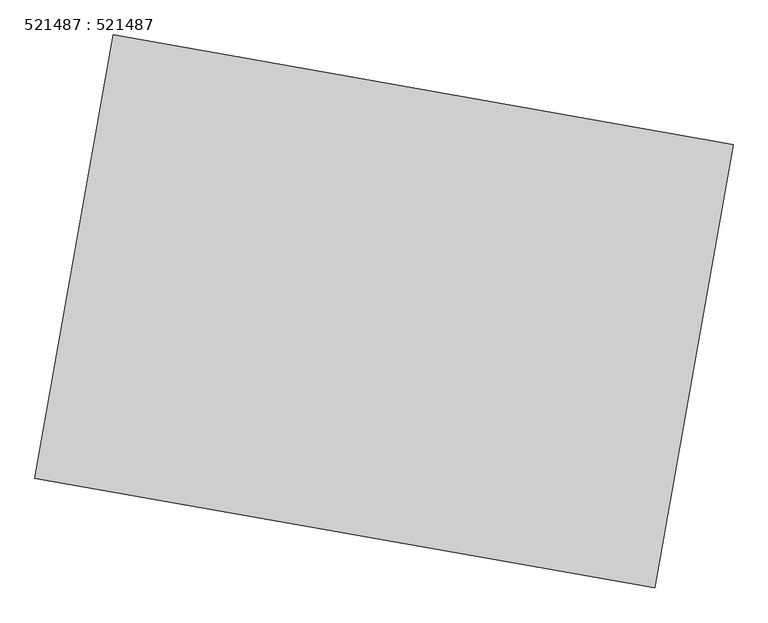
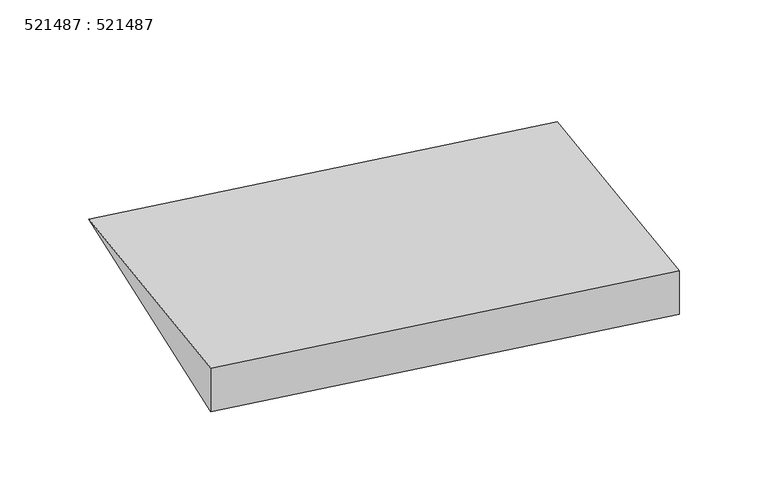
"""IFC4 building model written with IfcOpenShell, lengths in millimetres: proxy geometry, 521487 : 521487."""

from ifc_helpers import new_model, si_unit, frame, origin, place, context, project, spatial, polyline, outline, extrude, source, transform, mapped, element, save


def proxy_521487_521487_4b87c70a(model_context):
    return source(origin(), model_context, "Body", "SweptSolid", [
        extrude(outline(polyline([(-300.0, 0.0), (-300.0, 2017.8298701), (0.0, 0.0), (-300.0, 0.0)])), frame((38372.0397585, -14570.311145, 0.0), z_axis=(-0.9847017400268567, 0.17424833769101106, 0.0), x_axis=(0.0, 0.0, 1.0)), (0.0, 0.0, 1.0), 2816.3706733),
    ])


if __name__ == "__main__":
    model = new_model("IFC4")
    model_context = context("Model", 3, world=origin())
    ifc_project = project(units=[si_unit("LENGTHUNIT", "METRE", prefix="MILLI")], contexts=[model_context])
    site = spatial("IfcSite", under=ifc_project)
    building = spatial("IfcBuilding", under=site)
    placement = place(None, origin())
    proxy_521487_521487_shape = proxy_521487_521487_4b87c70a(model_context)
    element("IfcBuildingElementProxy", 1, Name="521487 : 521487", ObjectType="521487 : 521487", at=placement, inside=building, context=model_context, shape_type="MappedRepresentation", body=[
        mapped(proxy_521487_521487_shape, transform((0.0, 0.0, 0.0), x_axis=(1.0, 0.0, 0.0), y_axis=(0.0, 1.0, 0.0), z_axis=(0.0, 0.0, 1.0))),
    ])
    save(model, "model.ifc")
